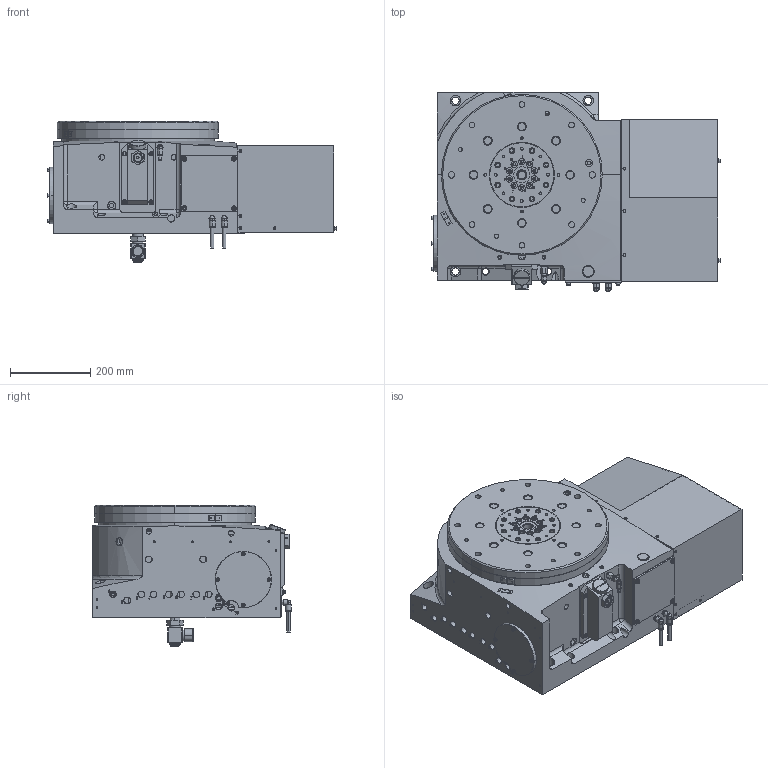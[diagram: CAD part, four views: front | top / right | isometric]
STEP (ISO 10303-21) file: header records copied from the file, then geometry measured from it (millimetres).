
FILE_DESCRIPTION (( 'STEP AP203' ), '1' );
FILE_NAME ('15161543 MDO403R-137.STEP', '2020-12-05T05:27:51', ( '' ), ( '' ), 'SwSTEP 2.0', 'SolidWorks 2019', '' );
FILE_SCHEMA (( 'CONFIG_CONTROL_DESIGN' ));
Length unit declared in the file: millimetre
Products named in the file (1): 15161543 MDO403R-137
Bounding box: 717.3 x 494.75 x 352.96 mm (x, y, z)
Surface area: 1875537.3 mm2 (no closed solid volume)
Topology: 0 solids, 109 shells, 1316 faces, 4604 edges, 3398 vertices
Faces by surface type: cylinder 529, plane 527, cone 186, torus 39, bspline 27, sphere 8
Entity records: 60396 total; most frequent: CARTESIAN_POINT 21488, DIRECTION 7906, ORIENTED_EDGE 7138, EDGE_CURVE 4595, VERTEX_POINT 3398, AXIS2_PLACEMENT_3D 2877, VECTOR 2152, LINE 2152
